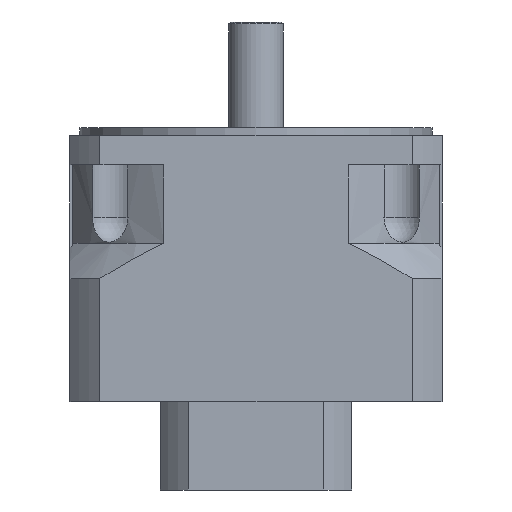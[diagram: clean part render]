
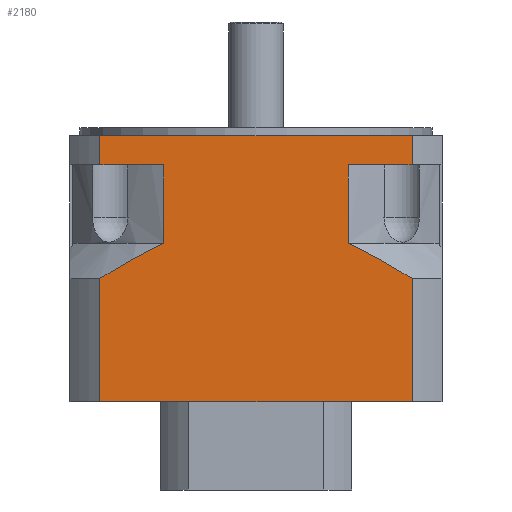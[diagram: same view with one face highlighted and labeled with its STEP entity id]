
A CAD part, front view. The second image highlights one B-rep face of the part: STEP entity #2180.
In plain terms, the highlighted planar face has unit normal (0, -1, 0).
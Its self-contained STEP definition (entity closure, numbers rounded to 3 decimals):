
#860=CARTESIAN_POINT('',(-79.693,-95.,181.));
#861=VERTEX_POINT('',#860);
#862=CARTESIAN_POINT('',(79.693,-95.,181.));
#863=VERTEX_POINT('',#862);
#864=CARTESIAN_POINT('',(-79.693,-95.0,181.0));
#865=DIRECTION('',(1.0,0.0,0.0));
#866=VECTOR('',#865,159.386);
#867=LINE('',#864,#866);
#868=EDGE_CURVE('',#861,#863,#867,.T.);
#1015=CARTESIAN_POINT('',(79.693,-95.,166.0));
#1016=VERTEX_POINT('',#1015);
#1017=CARTESIAN_POINT('',(79.693,-95.,181.));
#1018=DIRECTION('',(0.0,0.0,-1.0));
#1019=VECTOR('',#1018,15.);
#1020=LINE('',#1017,#1019);
#1021=EDGE_CURVE('',#863,#1016,#1020,.T.);
#1047=CARTESIAN_POINT('',(-79.693,-95.0,166.0));
#1048=VERTEX_POINT('',#1047);
#1049=CARTESIAN_POINT('',(-79.693,-95.0,166.0));
#1050=DIRECTION('',(0.0,0.0,1.0));
#1051=VECTOR('',#1050,15.);
#1052=LINE('',#1049,#1051);
#1053=EDGE_CURVE('',#1048,#861,#1052,.T.);
#1217=CARTESIAN_POINT('',(47.021,-95.0,166.0));
#1218=VERTEX_POINT('',#1217);
#1219=CARTESIAN_POINT('',(79.693,-95.,166.0));
#1220=DIRECTION('',(-1.0,0.0,0.0));
#1221=VECTOR('',#1220,32.672);
#1222=LINE('',#1219,#1221);
#1223=EDGE_CURVE('',#1016,#1218,#1222,.T.);
#1286=CARTESIAN_POINT('',(-47.021,-95.0,166.0));
#1287=VERTEX_POINT('',#1286);
#1288=CARTESIAN_POINT('',(-47.021,-95.0,166.0));
#1289=DIRECTION('',(-1.0,0.0,0.0));
#1290=VECTOR('',#1289,32.672);
#1291=LINE('',#1288,#1290);
#1292=EDGE_CURVE('',#1287,#1048,#1291,.T.);
#1738=CARTESIAN_POINT('',(47.021,-95.0,126.));
#1739=VERTEX_POINT('',#1738);
#1747=CARTESIAN_POINT('',(79.693,-95.,108.0));
#1748=VERTEX_POINT('',#1747);
#1749=CARTESIAN_POINT('',(79.693,-95.,108.0));
#1750=CARTESIAN_POINT('',(62.079,-95.0,119.321));
#1751=CARTESIAN_POINT('',(47.021,-95.0,126.));
#1759=(BOUNDED_CURVE()B_SPLINE_CURVE(2,(#1749,#1750,#1751),.UNSPECIFIED.,.F.,.U.)B_SPLINE_CURVE_WITH_KNOTS((3,3),(0.324,4.1),.UNSPECIFIED.)CURVE()GEOMETRIC_REPRESENTATION_ITEM()RATIONAL_B_SPLINE_CURVE((1.002,1.011,1.0))REPRESENTATION_ITEM(''));
#1760=EDGE_CURVE('',#1748,#1739,#1759,.T.);
#1921=CARTESIAN_POINT('',(47.021,-95.0,126.0));
#1922=DIRECTION('',(0.0,0.0,1.0));
#1923=VECTOR('',#1922,40.0);
#1924=LINE('',#1921,#1923);
#1925=EDGE_CURVE('',#1739,#1218,#1924,.T.);
#1981=CARTESIAN_POINT('',(-47.021,-95.0,126.));
#1982=VERTEX_POINT('',#1981);
#1990=CARTESIAN_POINT('',(-47.021,-95.0,166.0));
#1991=DIRECTION('',(0.0,0.0,-1.0));
#1992=VECTOR('',#1991,40.0);
#1993=LINE('',#1990,#1992);
#1994=EDGE_CURVE('',#1287,#1982,#1993,.T.);
#2052=CARTESIAN_POINT('',(-79.693,-95.,108.));
#2053=VERTEX_POINT('',#2052);
#2061=CARTESIAN_POINT('',(-47.021,-95.,126.));
#2062=CARTESIAN_POINT('',(-62.079,-95.,119.321));
#2063=CARTESIAN_POINT('',(-79.693,-95.,108.));
#2071=(BOUNDED_CURVE()B_SPLINE_CURVE(2,(#2061,#2062,#2063),.UNSPECIFIED.,.F.,.U.)B_SPLINE_CURVE_WITH_KNOTS((3,3),(0.0,3.776),.UNSPECIFIED.)CURVE()GEOMETRIC_REPRESENTATION_ITEM()RATIONAL_B_SPLINE_CURVE((1.0,1.011,1.002))REPRESENTATION_ITEM(''));
#2072=EDGE_CURVE('',#1982,#2053,#2071,.T.);
#2142=CARTESIAN_POINT('',(95.,-95.,45.0));
#2143=DIRECTION('',(0.0,-1.0,0.0));
#2144=DIRECTION('',(0.0,0.0,-1.0));
#2145=AXIS2_PLACEMENT_3D('',#2142,#2143,#2144);
#2146=PLANE('',#2145);
#2147=ORIENTED_EDGE('',*,*,#1994,.T.);
#2148=ORIENTED_EDGE('',*,*,#2072,.T.);
#2149=CARTESIAN_POINT('',(-79.693,-95.,45.0));
#2150=VERTEX_POINT('',#2149);
#2151=CARTESIAN_POINT('',(-79.693,-95.,45.0));
#2152=DIRECTION('',(0.0,0.0,1.0));
#2153=VECTOR('',#2152,63.);
#2154=LINE('',#2151,#2153);
#2155=EDGE_CURVE('',#2150,#2053,#2154,.T.);
#2156=ORIENTED_EDGE('',*,*,#2155,.F.);
#2157=CARTESIAN_POINT('',(79.693,-95.,45.0));
#2158=VERTEX_POINT('',#2157);
#2159=CARTESIAN_POINT('',(79.693,-95.0,45.0));
#2160=DIRECTION('',(-1.0,0.0,0.0));
#2161=VECTOR('',#2160,159.386);
#2162=LINE('',#2159,#2161);
#2163=EDGE_CURVE('',#2158,#2150,#2162,.T.);
#2164=ORIENTED_EDGE('',*,*,#2163,.F.);
#2165=CARTESIAN_POINT('',(79.693,-95.,108.0));
#2166=DIRECTION('',(0.0,0.0,-1.0));
#2167=VECTOR('',#2166,63.0);
#2168=LINE('',#2165,#2167);
#2169=EDGE_CURVE('',#1748,#2158,#2168,.T.);
#2170=ORIENTED_EDGE('',*,*,#2169,.F.);
#2171=ORIENTED_EDGE('',*,*,#1760,.T.);
#2172=ORIENTED_EDGE('',*,*,#1925,.T.);
#2173=ORIENTED_EDGE('',*,*,#1223,.F.);
#2174=ORIENTED_EDGE('',*,*,#1021,.F.);
#2175=ORIENTED_EDGE('',*,*,#868,.F.);
#2176=ORIENTED_EDGE('',*,*,#1053,.F.);
#2177=ORIENTED_EDGE('',*,*,#1292,.F.);
#2178=EDGE_LOOP('',(#2147,#2148,#2156,#2164,#2170,#2171,#2172,#2173,#2174,#2175,#2176,#2177));
#2179=FACE_OUTER_BOUND('',#2178,.T.);
#2180=ADVANCED_FACE('',(#2179),#2146,.T.);
